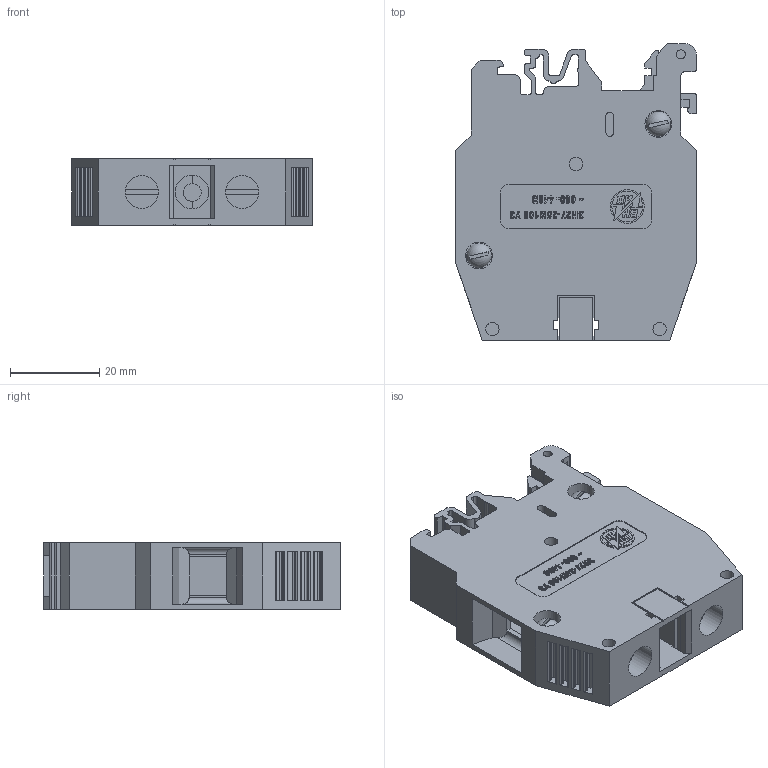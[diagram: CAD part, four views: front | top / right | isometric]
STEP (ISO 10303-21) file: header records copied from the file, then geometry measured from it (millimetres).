
FILE_DESCRIPTION(('STEP AP242'), '1');
FILE_NAME('Ñáîðêà ÇÍ27-25Ì100', '2024-06-06T12:39:27', (''), (''), 'ASCON STEP Converter 1.6', 'ASCON Math Kernel', '');
FILE_SCHEMA(('AP242_MANAGED_MODEL_BASED_3D_ENGINEERING_MIM_LF { 1 0 10303 442 1 1 4 }'));
Length unit declared in the file: millimetre
Bounding box: 54 x 66.5 x 15 mm (x, y, z)
Volume: 29248.2 mm3; surface area: 21274.2 mm2
Topology: 2 solids, 2 shells, 2637 faces, 7572 edges, 5029 vertices
Faces by surface type: cylinder 1404, plane 1227, sphere 4, cone 2
Full cylindrical faces by diameter (mm): 2 x2, 3 x6, 4 x1, 5 x2, 5.5 x4, 6 x4, 7.4 x2, 7.6 x1, 8.5 x2
Entity records: 108479 total; most frequent: DIRECTION 15620, CARTESIAN_POINT 15534, ORIENTED_EDGE 15084, EDGE_CURVE 7542, AXIS2_PLACEMENT_3D 5474, VERTEX_POINT 5029, LINE 4672, VECTOR 4672
